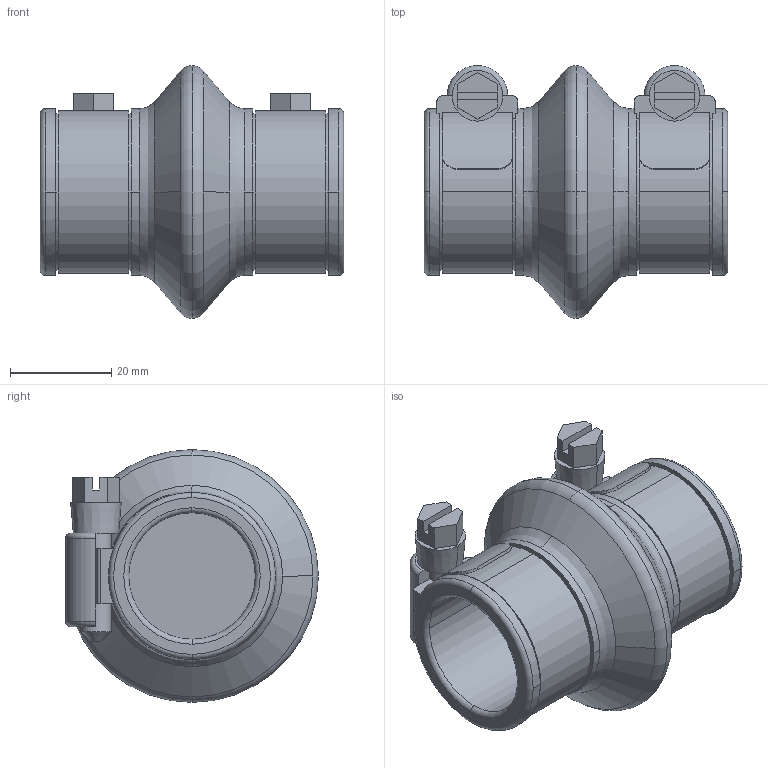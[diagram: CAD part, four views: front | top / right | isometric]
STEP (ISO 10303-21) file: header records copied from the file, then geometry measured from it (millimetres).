
FILE_DESCRIPTION((''),'2;1');
FILE_NAME('N:\Transfer\Berger Martin\Leybold\C13\18279.stp','2005-02-08T08:58:04',('PESO'),(''),'Autodesk Inventor 9','Autodesk Inventor 9','');
FILE_SCHEMA(('AUTOMOTIVE_DESIGN { 1 0 10303 214 1 1 1 1 }'));
Length unit declared in the file: millimetre
Products named in the file (1): 18279
Bounding box: 60 x 50 x 50 mm (x, y, z)
Volume: 31293.4 mm3; surface area: 16464.5 mm2
Topology: 1 solids, 1 shells, 174 faces, 502 edges, 330 vertices
Faces by surface type: plane 66, cylinder 60, torus 24, cone 16, bspline 8
Entity records: 6257 total; most frequent: CARTESIAN_POINT 1481, DIRECTION 1058, ORIENTED_EDGE 1004, EDGE_CURVE 502, AXIS2_PLACEMENT_3D 413, VERTEX_POINT 330, CIRCLE 246, VECTOR 232
